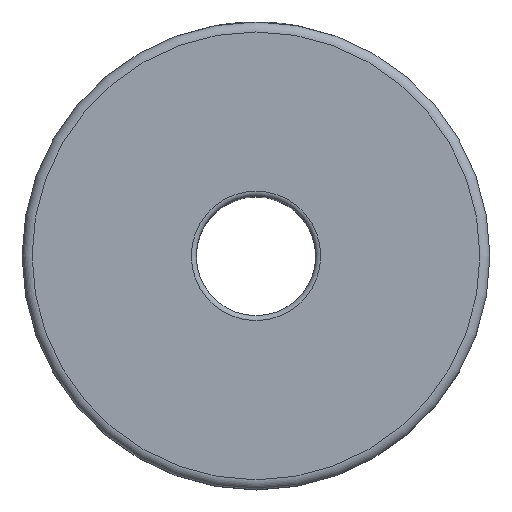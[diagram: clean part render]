
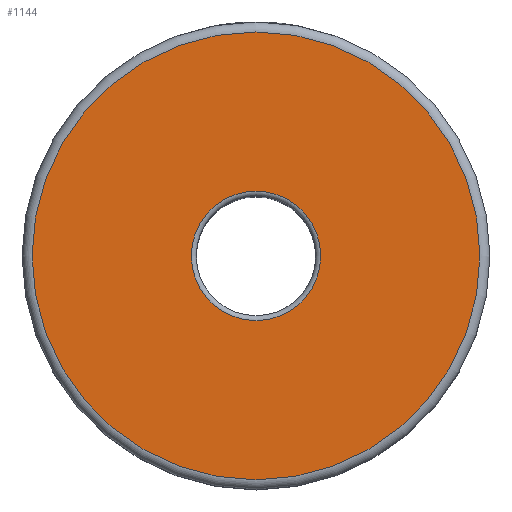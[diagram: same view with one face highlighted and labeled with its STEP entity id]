
A CAD part, top view. The second image highlights one B-rep face of the part: STEP entity #1144.
In plain terms, the highlighted planar face has unit normal (0, 0, 1).
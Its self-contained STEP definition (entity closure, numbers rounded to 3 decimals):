
#35=FACE_BOUND('',#409,.T.);
#235=PLANE('',#1258);
#337=FACE_OUTER_BOUND('',#408,.T.);
#408=EDGE_LOOP('',(#875));
#409=EDGE_LOOP('',(#876));
#497=CIRCLE('',#1254,6.5);
#501=CIRCLE('',#1259,22.5);
#572=VERTEX_POINT('',#2018);
#575=VERTEX_POINT('',#2026);
#689=EDGE_CURVE('',#572,#572,#497,.T.);
#693=EDGE_CURVE('',#575,#575,#501,.T.);
#875=ORIENTED_EDGE('',*,*,#693,.F.);
#876=ORIENTED_EDGE('',*,*,#689,.F.);
#1144=ADVANCED_FACE('',(#337,#35),#235,.T.);
#1254=AXIS2_PLACEMENT_3D('',#2019,#1428,#1429);
#1258=AXIS2_PLACEMENT_3D('',#2025,#1436,#1437);
#1259=AXIS2_PLACEMENT_3D('',#2027,#1438,#1439);
#1428=DIRECTION('center_axis',(0.,0.,1.));
#1429=DIRECTION('ref_axis',(0.,1.,0.));
#1436=DIRECTION('center_axis',(0.,0.,1.));
#1437=DIRECTION('ref_axis',(1.,0.,0.));
#1438=DIRECTION('center_axis',(0.,0.,-1.));
#1439=DIRECTION('ref_axis',(0.,1.,0.));
#2018=CARTESIAN_POINT('',(6.5,0.,0.));
#2019=CARTESIAN_POINT('Origin',(0.,0.,0.));
#2025=CARTESIAN_POINT('Origin',(0.,-23.5,0.));
#2026=CARTESIAN_POINT('',(22.5,0.,0.));
#2027=CARTESIAN_POINT('Origin',(0.,0.,0.));
